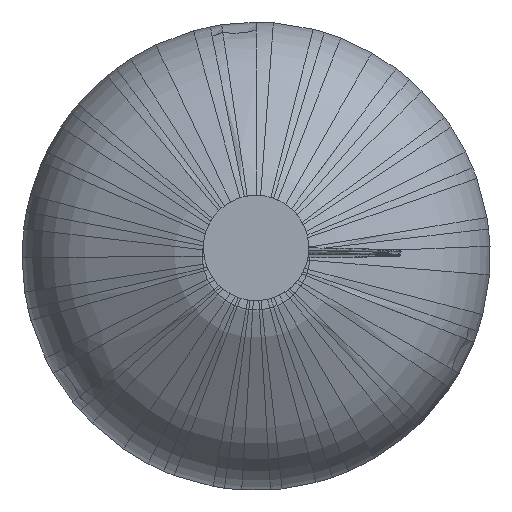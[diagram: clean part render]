
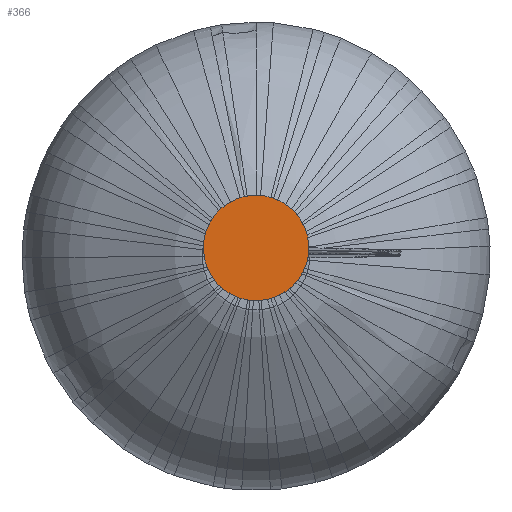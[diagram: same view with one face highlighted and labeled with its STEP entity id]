
A CAD part, top view. The second image highlights one B-rep face of the part: STEP entity #366.
In plain terms, the highlighted planar face has unit normal (0, 0, 1).
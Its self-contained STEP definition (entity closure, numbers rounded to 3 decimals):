
#104=TRIMMED_CURVE($,#215,(#3619),(#3620),.T.,.CARTESIAN.);
#106=TRIMMED_CURVE($,#217,(#3629),(#3630),.T.,.CARTESIAN.);
#215=CIRCLE('',#2029,45.);
#217=CIRCLE('',#2031,45.);
#366=ADVANCED_FACE('',(#481),#1824,.T.);
#481=FACE_OUTER_BOUND('',#596,.T.);
#596=EDGE_LOOP('',(#746,#747));
#746=ORIENTED_EDGE('',*,*,#1236,.T.);
#747=ORIENTED_EDGE('',*,*,#1232,.F.);
#1232=EDGE_CURVE('',#1645,#1646,#104,.T.);
#1236=EDGE_CURVE('',#1645,#1646,#106,.T.);
#1645=VERTEX_POINT('',#3614);
#1646=VERTEX_POINT('',#3615);
#1824=PLANE('',#2026);
#2026=AXIS2_PLACEMENT_3D('',#3611,#2194,$);
#2029=AXIS2_PLACEMENT_3D($,#3618,#2197,#2198);
#2031=AXIS2_PLACEMENT_3D($,#3628,#2201,#2202);
#2194=DIRECTION('',(0.,0.,1.));
#2197=DIRECTION('',(0.,0.,-1.));
#2198=DIRECTION('',(0.999,0.032,0.));
#2201=DIRECTION('',(0.,0.,1.));
#2202=DIRECTION('',(0.999,0.032,0.));
#3611=CARTESIAN_POINT('',(150.437,245.864,4451.229));
#3614=CARTESIAN_POINT('',(244.872,200.976,4451.229));
#3615=CARTESIAN_POINT('',(154.919,198.056,4451.229));
#3618=CARTESIAN_POINT('',(199.895,199.516,4451.229));
#3619=CARTESIAN_POINT('',(244.872,200.976,4451.229));
#3620=CARTESIAN_POINT('',(154.919,198.056,4451.229));
#3628=CARTESIAN_POINT('',(199.895,199.516,4451.229));
#3629=CARTESIAN_POINT('',(244.872,200.976,4451.229));
#3630=CARTESIAN_POINT('',(154.919,198.056,4451.229));
